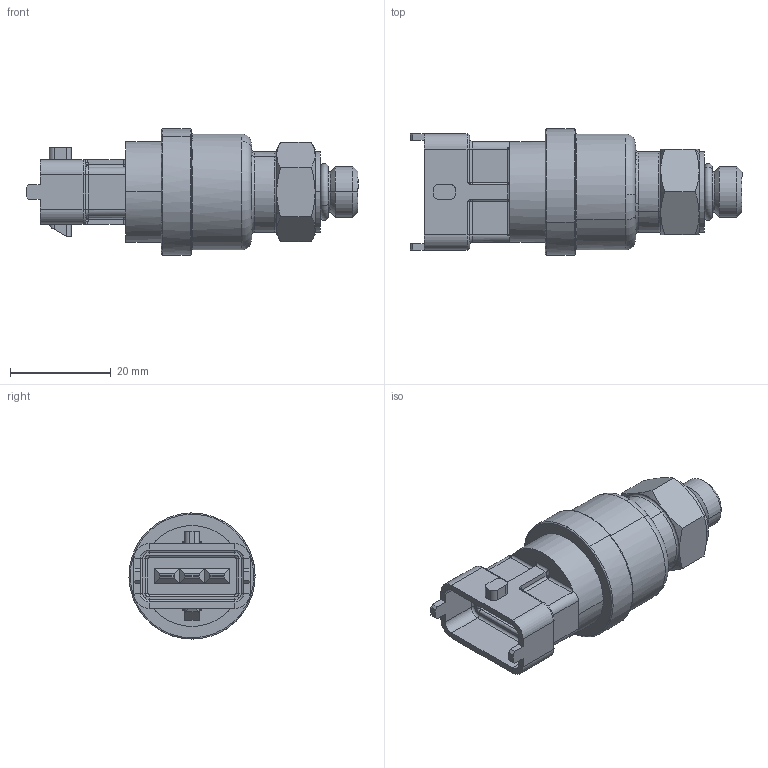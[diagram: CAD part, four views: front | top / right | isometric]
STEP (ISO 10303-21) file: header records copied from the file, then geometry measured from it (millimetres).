
FILE_DESCRIPTION(('CATIA V5 STEP Exchange'),'2;1');
FILE_NAME('\\bosch.com\dfsrb\DfsDE\DIV\BEG\MSD\Gruppen\MSDP\01_Austausch\!Limitierte Beschäftigte\Praktikanten\HnA\3D Modelle Katalog\Neu\Sensoren\Druck in Flüssigkeiten\PSS-10.stp','2014-01-17T07:52:12+00:00',('none'),('none'),'CATIA Version 5 Release 19 SP 9 (IN-10)','CATIA V5 STEP AP214','none');
FILE_SCHEMA(('AUTOMOTIVE_DESIGN { 1 0 10303 214 1 1 1 1 }'));
Length unit declared in the file: millimetre
Products named in the file (1): PSS-10
Bounding box: 65.8 x 24.99 x 24.99 mm (x, y, z)
Volume: 15206.9 mm3; surface area: 6263.4 mm2
Topology: 1 solids, 1 shells, 426 faces, 1036 edges, 620 vertices
Faces by surface type: plane 192, cylinder 152, torus 44, cone 22, sphere 16
Entity records: 13316 total; most frequent: CARTESIAN_POINT 2437, ORIENTED_EDGE 2040, DIRECTION 1597, EDGE_CURVE 1020, AXIS2_PLACEMENT_3D 720, VERTEX_POINT 620, VECTOR 556, LINE 556
